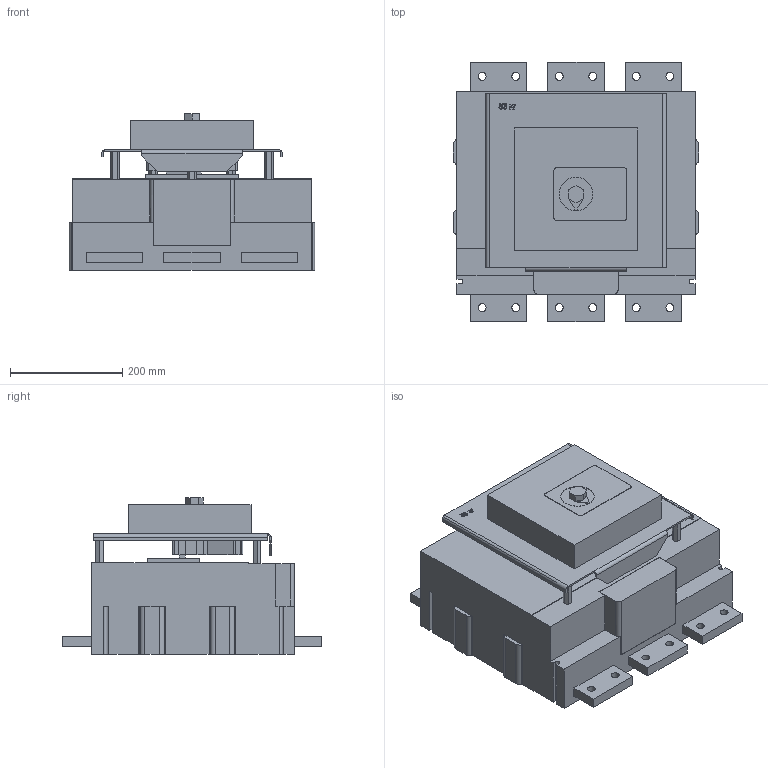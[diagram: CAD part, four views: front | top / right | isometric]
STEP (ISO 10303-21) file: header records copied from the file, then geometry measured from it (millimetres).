
FILE_DESCRIPTION (( 'STEP AP214' ), '1' );
FILE_NAME ('ÂÀ 53(55)-43 ñ ýëåêòðîìàãíèòíûì ïðèâîäîì 1600À.STEP', '2023-02-09T07:03:16', ( '' ), ( '' ), 'SwSTEP 2.0', 'SolidWorks 2018', '' );
FILE_SCHEMA (( 'AUTOMOTIVE_DESIGN' ));
Length unit declared in the file: millimetre
Products named in the file (1): ÂÀ 53(55)-43 ñ ýëåêòðîìàãíèòíûì ïðèâîäîì 1600À
Bounding box: 438 x 462.5 x 279.3 mm (x, y, z)
Volume: 28454167 mm3; surface area: 1000311.4 mm2
Topology: 1 solids, 1 shells, 263 faces, 780 edges, 537 vertices
Faces by surface type: plane 209, cylinder 52, bspline 2
Full cylindrical faces by diameter (mm): 14 x12, 60 x1
Entity records: 9231 total; most frequent: CARTESIAN_POINT 2024, ORIENTED_EDGE 1534, DIRECTION 1357, EDGE_CURVE 767, LINE 625, VECTOR 625, VERTEX_POINT 537, AXIS2_PLACEMENT_3D 366
